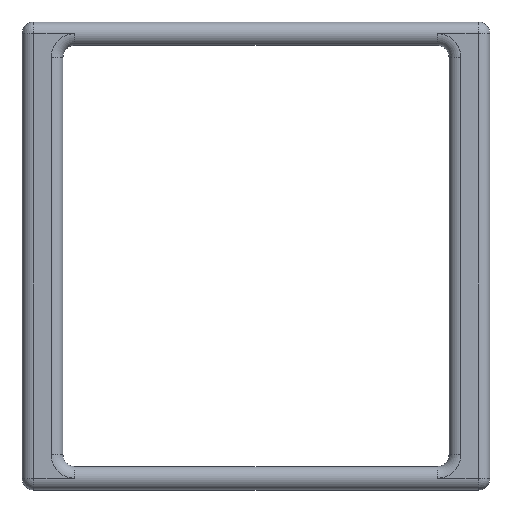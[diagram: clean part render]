
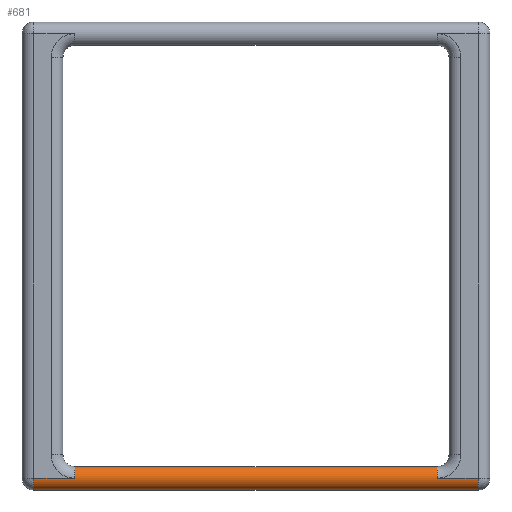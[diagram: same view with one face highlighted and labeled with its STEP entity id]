
A CAD part, top view. The second image highlights one B-rep face of the part: STEP entity #681.
In plain terms, the highlighted cylindrical face has radius 2 mm (diameter 4 mm), a partial arc.
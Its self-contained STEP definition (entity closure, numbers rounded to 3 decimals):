
#52=LINE('',#1112,#100);
#60=LINE('',#1151,#108);
#63=LINE('',#1161,#111);
#69=LINE('',#1199,#117);
#100=VECTOR('',#885,10.);
#108=VECTOR('',#921,10.);
#111=VECTOR('',#930,10.);
#117=VECTOR('',#978,10.);
#143=CYLINDRICAL_SURFACE('',#786,2.);
#174=FACE_OUTER_BOUND('',#220,.T.);
#220=EDGE_LOOP('',(#560,#561,#562,#563,#564,#565,#566,#567));
#248=CIRCLE('',#734,2.);
#254=CIRCLE('',#743,2.);
#277=CIRCLE('',#775,2.);
#281=CIRCLE('',#783,2.);
#302=VERTEX_POINT('',#1078);
#303=VERTEX_POINT('',#1079);
#308=VERTEX_POINT('',#1095);
#309=VERTEX_POINT('',#1097);
#328=VERTEX_POINT('',#1150);
#332=VERTEX_POINT('',#1160);
#339=VERTEX_POINT('',#1178);
#342=VERTEX_POINT('',#1193);
#368=EDGE_CURVE('',#302,#303,#248,.F.);
#378=EDGE_CURVE('',#308,#309,#254,.F.);
#385=EDGE_CURVE('',#309,#302,#52,.T.);
#405=EDGE_CURVE('',#328,#308,#60,.T.);
#410=EDGE_CURVE('',#303,#332,#63,.T.);
#420=EDGE_CURVE('',#332,#339,#277,.T.);
#427=EDGE_CURVE('',#342,#328,#281,.T.);
#430=EDGE_CURVE('',#339,#342,#69,.T.);
#560=ORIENTED_EDGE('',*,*,#427,.T.);
#561=ORIENTED_EDGE('',*,*,#405,.T.);
#562=ORIENTED_EDGE('',*,*,#378,.T.);
#563=ORIENTED_EDGE('',*,*,#385,.T.);
#564=ORIENTED_EDGE('',*,*,#368,.T.);
#565=ORIENTED_EDGE('',*,*,#410,.T.);
#566=ORIENTED_EDGE('',*,*,#420,.T.);
#567=ORIENTED_EDGE('',*,*,#430,.T.);
#681=ADVANCED_FACE('',(#174),#143,.T.);
#734=AXIS2_PLACEMENT_3D('',#1080,#846,#847);
#743=AXIS2_PLACEMENT_3D('',#1099,#868,#869);
#775=AXIS2_PLACEMENT_3D('',#1180,#951,#952);
#783=AXIS2_PLACEMENT_3D('',#1194,#970,#971);
#786=AXIS2_PLACEMENT_3D('',#1198,#976,#977);
#846=DIRECTION('center_axis',(1.,0.,0.));
#847=DIRECTION('ref_axis',(0.,-1.,0.));
#868=DIRECTION('center_axis',(-1.,0.,0.));
#869=DIRECTION('ref_axis',(0.,0.,1.));
#885=DIRECTION('',(1.,0.,0.));
#921=DIRECTION('',(-1.,0.,0.));
#930=DIRECTION('',(-1.,0.,0.));
#951=DIRECTION('center_axis',(-1.,0.,0.));
#952=DIRECTION('ref_axis',(0.,0.,1.));
#970=DIRECTION('center_axis',(1.,0.,0.));
#971=DIRECTION('ref_axis',(0.,1.,0.));
#976=DIRECTION('center_axis',(-1.,0.,0.));
#977=DIRECTION('ref_axis',(0.,0.707,0.707));
#978=DIRECTION('',(-1.,0.,0.));
#1078=CARTESIAN_POINT('',(78.,0.,3.));
#1079=CARTESIAN_POINT('',(78.,2.,5.));
#1080=CARTESIAN_POINT('Origin',(78.,2.,3.));
#1095=CARTESIAN_POINT('',(2.,2.,5.));
#1097=CARTESIAN_POINT('',(2.,0.,3.));
#1099=CARTESIAN_POINT('Origin',(2.,2.,3.));
#1112=CARTESIAN_POINT('',(20.,0.,3.));
#1150=CARTESIAN_POINT('',(9.,2.,5.));
#1151=CARTESIAN_POINT('',(20.,2.,5.));
#1160=CARTESIAN_POINT('',(71.,2.,5.));
#1161=CARTESIAN_POINT('',(20.,2.,5.));
#1178=CARTESIAN_POINT('',(71.,4.,3.));
#1180=CARTESIAN_POINT('Origin',(71.,2.,3.));
#1193=CARTESIAN_POINT('',(9.,4.,3.));
#1194=CARTESIAN_POINT('Origin',(9.,2.,3.));
#1198=CARTESIAN_POINT('Origin',(23.5,2.,3.));
#1199=CARTESIAN_POINT('',(23.5,4.,3.));
